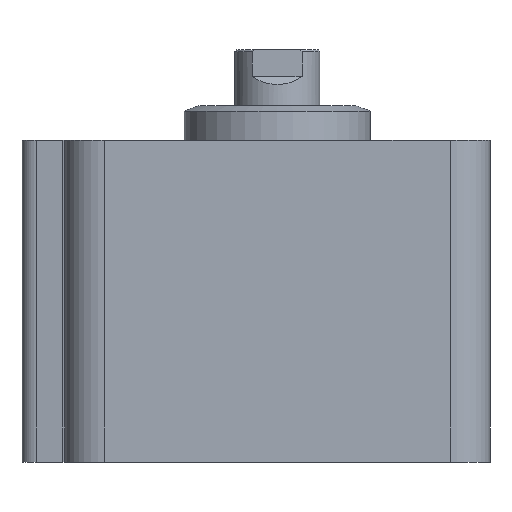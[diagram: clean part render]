
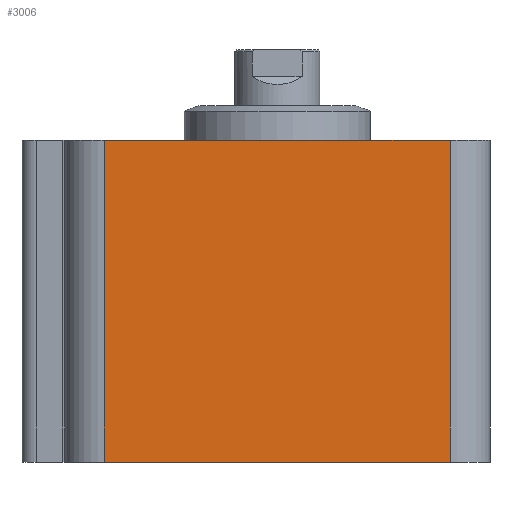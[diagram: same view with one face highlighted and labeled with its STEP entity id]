
A CAD part, left-side view. The second image highlights one B-rep face of the part: STEP entity #3006.
In plain terms, the highlighted planar face has unit normal (-1, 0, 0).
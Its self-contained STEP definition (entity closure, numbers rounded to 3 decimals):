
#1019=DIRECTION('',(0.,-1.,0.));
#1020=VECTOR('',#1019,65.);
#1021=CARTESIAN_POINT('',(-40.,32.5,0.));
#1022=LINE('',#1021,#1020);
#1023=DIRECTION('',(0.,1.,0.));
#1024=VECTOR('',#1023,65.);
#1025=CARTESIAN_POINT('',(-40.,-32.5,-60.5));
#1026=LINE('',#1025,#1024);
#1027=DIRECTION('',(0.,0.,1.));
#1028=VECTOR('',#1027,60.5);
#1029=CARTESIAN_POINT('',(-40.,32.5,-60.5));
#1030=LINE('',#1029,#1028);
#1031=DIRECTION('',(0.,0.,1.));
#1032=VECTOR('',#1031,60.5);
#1033=CARTESIAN_POINT('',(-40.,-32.5,-60.5));
#1034=LINE('',#1033,#1032);
#1230=CARTESIAN_POINT('',(-40.,-32.5,0.));
#1232=VERTEX_POINT('',#1230);
#1247=CARTESIAN_POINT('',(-40.,32.5,0.));
#1248=VERTEX_POINT('',#1247);
#1250=CARTESIAN_POINT('',(-40.,-32.5,-60.5));
#1252=VERTEX_POINT('',#1250);
#1267=CARTESIAN_POINT('',(-40.,32.5,-60.5));
#1268=VERTEX_POINT('',#1267);
#2994=CARTESIAN_POINT('',(-40.,32.5,0.));
#2995=DIRECTION('',(-1.,0.,0.));
#2996=DIRECTION('',(0.,-1.,0.));
#2997=AXIS2_PLACEMENT_3D('',#2994,#2995,#2996);
#2998=PLANE('',#2997);
#2999=ORIENTED_EDGE('',*,*,#1586,.T.);
#3001=ORIENTED_EDGE('',*,*,#3000,.F.);
#3002=ORIENTED_EDGE('',*,*,#1839,.T.);
#3003=ORIENTED_EDGE('',*,*,#2987,.T.);
#3004=EDGE_LOOP('',(#2999,#3001,#3002,#3003));
#3005=FACE_OUTER_BOUND('',#3004,.F.);
#3006=ADVANCED_FACE('',(#3005),#2998,.T.);
#1586=EDGE_CURVE('',#1248,#1232,#1022,.T.);
#1839=EDGE_CURVE('',#1252,#1268,#1026,.T.);
#2987=EDGE_CURVE('',#1268,#1248,#1030,.T.);
#3000=EDGE_CURVE('',#1252,#1232,#1034,.T.);
